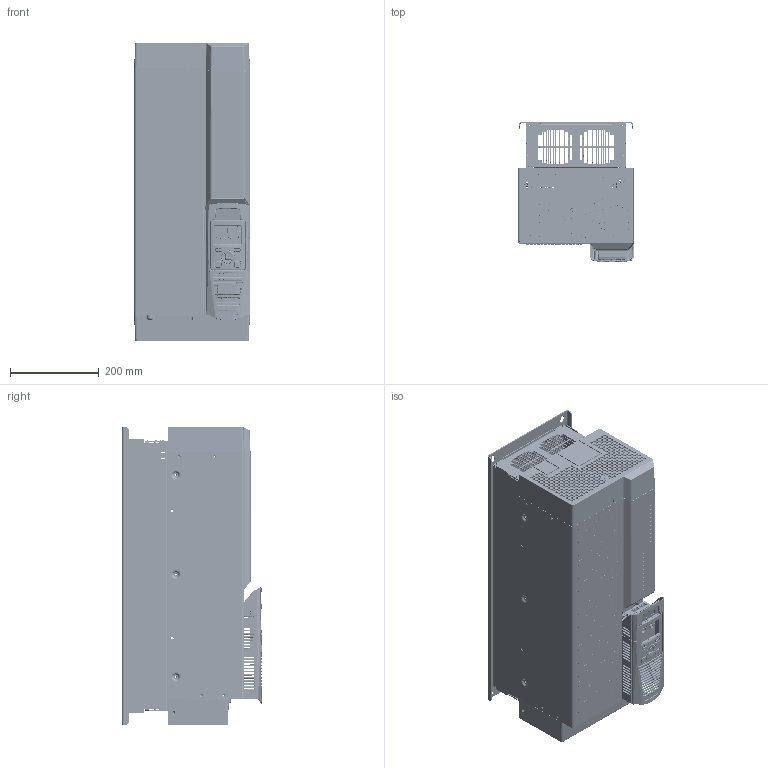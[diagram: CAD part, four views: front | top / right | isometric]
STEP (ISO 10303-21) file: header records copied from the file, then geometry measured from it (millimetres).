
FILE_DESCRIPTION(/* description */ ('dct_fn_shtm_615225_101h'),/* implementation_level */ '2;1');
FILE_NAME(/* name */ 'C:\1SSDE Vault\CAD\Users\Paul\AC30x_pdcts\AC30H\assy_pdct_AC30H_otln.stp',/* time_stamp */ '2015-11-17T08:47:39+00:00',/* author */ ('pw037365'),/* organization */ (''),/* preprocessor_version */ 'ST-DEVELOPER v15.2',/* originating_system */ 'Autodesk Inventor 2014',/* authorisation */ '');
FILE_SCHEMA (('AUTOMOTIVE_DESIGN { 1 0 10303 214 3 1 1 }'));
Products named in the file (49): dct_fn_shtm_615225_101h; grd_dct_shtm_225100; grd_fn_shtm_2x92_225100; brkt_mtg_256670_12h; dct_assy_szH_short; chss_shtm_szH; spcr_ptfm_m8_24_BG502380_2; ins_blk_bsbr_trm_30p_DH502359vC_nx03mar14_1; trm_assy_8w_dvmm3__3; ins_blk_bsbr_trm_32p_DH502285v0E_nx03mar14_1; trm_assy_2w_250mcm_32p__2; chss_assy_szH_vault_transfer_2; grd_al_shtm_lwr_szH; TPS-3-16; KFE-M3-3 ET; grd_al_shtm_upr_szH_MODEL_BA502239v01_invjt06mar14_1; pin_srt_3d0_16l_nx_15aug13_TPS-3-16-ZI_MODEL Duplicate10_1; spcr_srt_m3_3_zi_nx07feb14_KFE-M3-3-ZI_MODEL_Duplicate3_1; grd_al_shtm_upr_szH_BA502239_1; brkt_ptfm_shtm_szH; SO-M4-4 ZI; FH-M4-18 ZI; S-M3-1 ZI; brkt_ptfm_shtm_assy_szH; grd_plt_98w5_2thk_BA502240v02a_nx10mar14_1; cvr_ptfm_al_shtm_szH; cvr_assy_szH; pcb_skt_vcm_AH502210_exp05feb14_1; cvr_fr_assy_szH_vault_transfer_1; cvr_trm_lwr_szH_BD502242v0F_invjt06mar14_1; cvr_trm_upr_szH_BD502243v0D_invjt06mar13_1; scr_hx_13af_m8_20_; nt_hx_13af_m8_8p8; wshr_spr_m8_disc; BB501373v26a_hsng_cst_bk; BB501372v22_hsng_cst_fr; BD501377U000v25_CVR_FR_UPPER; BD501376U000v18_CVR_FR_LWR_QUALIFICATION; cvr_top_dspl_BD501712_1; dspl_ky_rbbr_9p_78w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
Bounding box: 260.01 x 315.26 x 670.05 mm (x, y, z)
Volume: 3469162.5 mm3; surface area: 3199293.2 mm2
Topology: 1051 solids, 1054 shells, 18824 faces, 47544 edges, 29837 vertices
Faces by surface type: plane 11170, cylinder 4147, cone 1757, bspline 1010, torus 462, sphere 278
Full cylindrical faces by diameter (mm): 0.8 x2, 1.2 x28, 1.32 x1, 1.5 x2, 2 x4, 2.4 x4, 2.459 x7, 3 x12, 3.2 x8, 3.242 x10, 3.3 x28, 3.344 x1, 3.346 x1, 3.4 x14, 3.492 x1, 3.5 x35, 3.7 x14, 3.9 x7, 4 x46, 4.1 x1, 4.2 x7, 4.22 x9, 4.28 x12, 4.3 x1, 4.5 x49, 4.68 x10, 4.75 x2, 4.8 x29, 5 x4, 5.1 x2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
Entity records: 551365 total; most frequent: CARTESIAN_POINT 143193, DIRECTION 82671, ORIENTED_EDGE 78350, EDGE_CURVE 39159, AXIS2_PLACEMENT_3D 29451, VERTEX_POINT 25904, LINE 23769, VECTOR 23769
